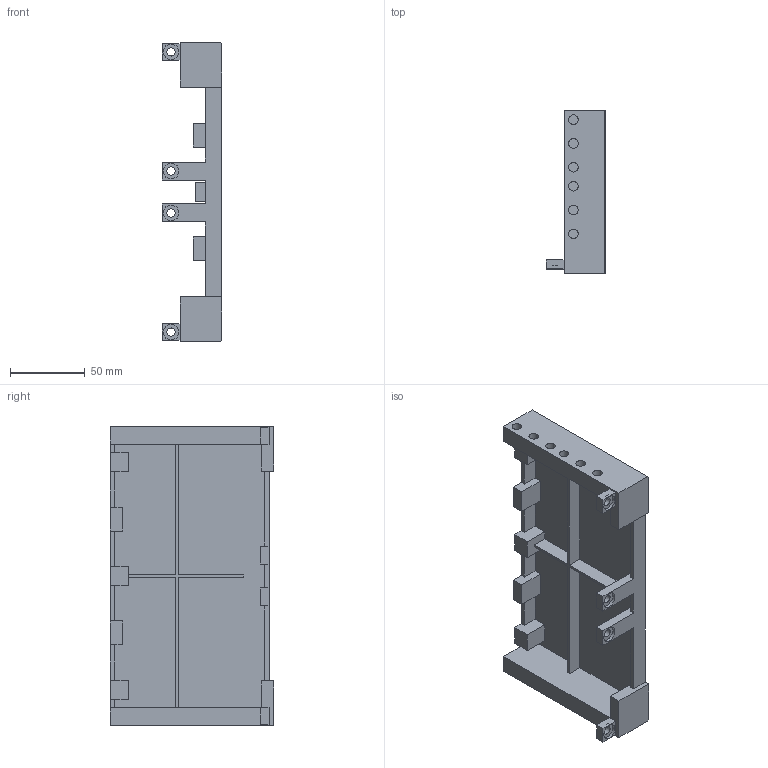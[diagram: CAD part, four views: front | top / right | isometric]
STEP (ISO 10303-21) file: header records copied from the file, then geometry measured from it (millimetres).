
FILE_DESCRIPTION(('Open CASCADE Model'),'2;1');
FILE_NAME('Open CASCADE Shape Model','2026-10-27T02:33:58',('Author'),( 'Open CASCADE'),'Open CASCADE STEP processor 7.9','Open CASCADE 7.9' ,'Unknown');
FILE_SCHEMA(('AUTOMOTIVE_DESIGN { 1 0 10303 214 1 1 1 1 }'));
Length unit declared in the file: millimetre
Products named in the file (1): Open CASCADE STEP translator 7.9 1
Bounding box: 40 x 108.9 x 200 mm (x, y, z)
Volume: 126351.9 mm3; surface area: 78537.9 mm2
Topology: 1 solids, 1 shells, 136 faces, 339 edges, 226 vertices
Faces by surface type: plane 113, cylinder 23
Full cylindrical faces by diameter (mm): 5.5 x4, 6.4 x15, 10.5 x4
Entity records: 8291 total; most frequent: CARTESIAN_POINT 1738, DIRECTION 1094, LINE 705, VECTOR 705, ORIENTED_EDGE 678, PCURVE 678, DEFINITIONAL_REPRESENTATION 678, EDGE_CURVE 339
